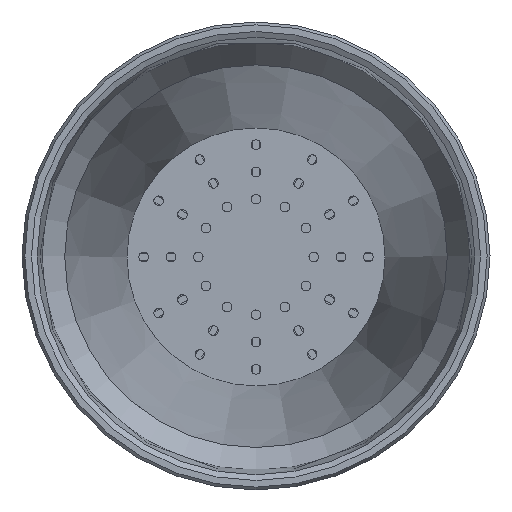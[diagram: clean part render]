
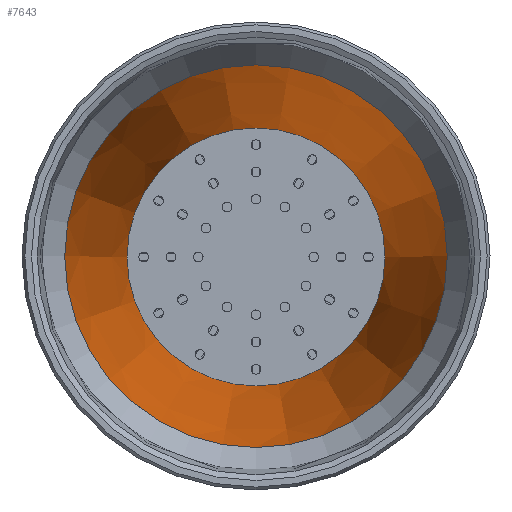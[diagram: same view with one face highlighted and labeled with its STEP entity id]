
A CAD part, top view. The second image highlights one B-rep face of the part: STEP entity #7643.
In plain terms, the highlighted conical face has half-angle 8 degrees and reference radius 49.897 mm.
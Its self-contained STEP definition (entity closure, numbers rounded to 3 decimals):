
#474=CONICAL_SURFACE('',#8215,49.897,0.14);
#769=FACE_OUTER_BOUND('',#1261,.T.);
#1261=EDGE_LOOP('',(#5566,#5567,#5568,#5569));
#1689=LINE('',#13230,#2481);
#2481=VECTOR('',#8908,49.897);
#3281=CIRCLE('',#8137,59.595);
#3284=CIRCLE('',#8143,40.2);
#3481=VERTEX_POINT('',#13075);
#3484=VERTEX_POINT('',#13086);
#4265=EDGE_CURVE('',#3481,#3481,#3281,.T.);
#4270=EDGE_CURVE('',#3484,#3484,#3284,.T.);
#4341=EDGE_CURVE('',#3481,#3484,#1689,.T.);
#5566=ORIENTED_EDGE('',*,*,#4265,.T.);
#5567=ORIENTED_EDGE('',*,*,#4341,.T.);
#5568=ORIENTED_EDGE('',*,*,#4270,.F.);
#5569=ORIENTED_EDGE('',*,*,#4341,.F.);
#7643=ADVANCED_FACE('',(#769),#474,.F.);
#8137=AXIS2_PLACEMENT_3D('',#13076,#8748,#8749);
#8143=AXIS2_PLACEMENT_3D('',#13087,#8762,#8763);
#8215=AXIS2_PLACEMENT_3D('',#13229,#8906,#8907);
#8748=DIRECTION('center_axis',(0.,0.,1.));
#8749=DIRECTION('ref_axis',(1.,0.,0.));
#8762=DIRECTION('center_axis',(0.,0.,1.));
#8763=DIRECTION('ref_axis',(1.,0.,0.));
#8906=DIRECTION('center_axis',(0.,0.,1.));
#8907=DIRECTION('ref_axis',(1.,0.,0.));
#8908=DIRECTION('',(0.139,0.,-0.99));
#13075=CARTESIAN_POINT('',(-59.595,0.,144.));
#13076=CARTESIAN_POINT('Origin',(0.,0.,144.));
#13086=CARTESIAN_POINT('',(-40.2,0.,6.));
#13087=CARTESIAN_POINT('Origin',(0.,0.,6.));
#13229=CARTESIAN_POINT('Origin',(0.,0.,75.));
#13230=CARTESIAN_POINT('',(-49.897,0.,75.));
